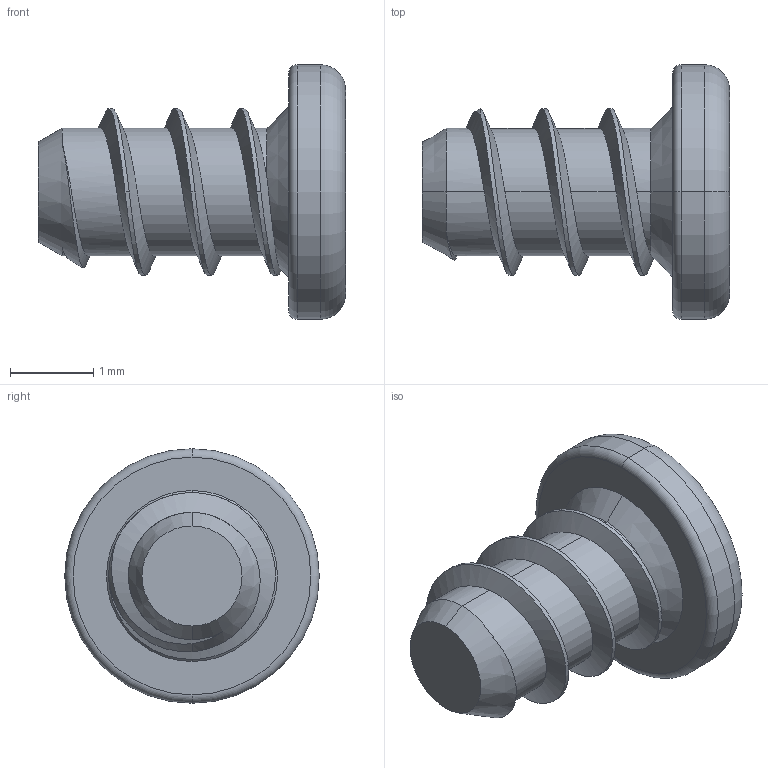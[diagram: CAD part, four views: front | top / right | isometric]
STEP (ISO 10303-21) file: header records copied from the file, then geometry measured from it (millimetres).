
FILE_DESCRIPTION (( 'STEP AP203' ), '1' );
FILE_NAME ('M20-30-P-30-UP.STEP', '2014-06-24T16:35:03', ( 'Chromium' ), ( 'Microsoft' ), 'SwSTEP 2.0', 'SolidWorks 2013', '' );
FILE_SCHEMA (( 'CONFIG_CONTROL_DESIGN' ));
Length unit declared in the file: millimetre
Products named in the file (1): M20-30-P-30-UP
Bounding box: 3.68 x 3.05 x 3.05 mm (x, y, z)
Volume: 10.7 mm3; surface area: 39.9 mm2
Topology: 1 solids, 1 shells, 51 faces, 126 edges, 75 vertices
Faces by surface type: cylinder 20, plane 16, bspline 6, cone 5, torus 4
Entity records: 2146 total; most frequent: CARTESIAN_POINT 1032, ORIENTED_EDGE 244, DIRECTION 185, EDGE_CURVE 122, VERTEX_POINT 75, AXIS2_PLACEMENT_3D 69, EDGE_LOOP 53, FACE_OUTER_BOUND 51
